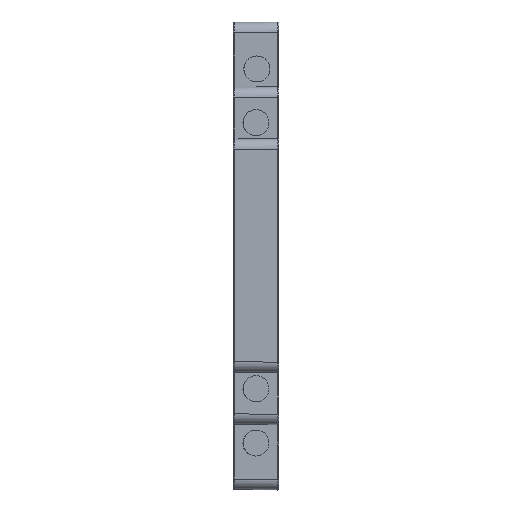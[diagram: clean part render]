
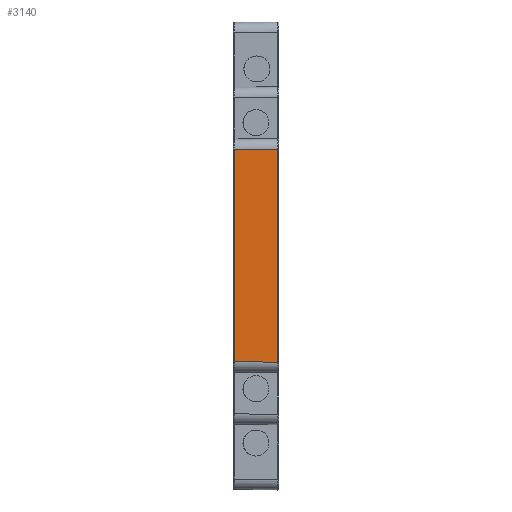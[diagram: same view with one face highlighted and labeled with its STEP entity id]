
A CAD part, top view. The second image highlights one B-rep face of the part: STEP entity #3140.
In plain terms, the highlighted planar face has unit normal (-0.009, 0, 1).
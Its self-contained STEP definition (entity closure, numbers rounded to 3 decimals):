
#12 = CARTESIAN_POINT ( 'NONE',  ( 8.598, 24.5, 59.696 ) ) ;
#339 = EDGE_CURVE ( 'NONE', #6091, #6388, #846, .T. ) ;
#545 = DIRECTION ( 'NONE',  ( 0., 1., 0. ) ) ;
#721 = DIRECTION ( 'NONE',  ( 1., 0.009, 0.009 ) ) ;
#784 = EDGE_CURVE ( 'NONE', #4058, #6388, #4482, .T. ) ;
#811 = VECTOR ( 'NONE', #7053, 1000. ) ;
#846 = LINE ( 'NONE', #4009, #811 ) ;
#1580 = FACE_OUTER_BOUND ( 'NONE', #7339, .T. ) ;
#2239 = ORIENTED_EDGE ( 'NONE', *, *, #339, .T. ) ;
#2740 = ORIENTED_EDGE ( 'NONE', *, *, #784, .F. ) ;
#2804 = DIRECTION ( 'NONE',  ( 0., -1., 0. ) ) ;
#2968 = ORIENTED_EDGE ( 'NONE', *, *, #4594, .F. ) ;
#3140 = ADVANCED_FACE ( 'NONE', ( #1580 ), #3210, .T. ) ;
#3210 = PLANE ( 'NONE',  #6452 ) ;
#3956 = CARTESIAN_POINT ( 'NONE',  ( 0.198, 24.573, 59.623 ) ) ;
#4009 = CARTESIAN_POINT ( 'NONE',  ( 0.198, 24.573, 59.623 ) ) ;
#4058 = VERTEX_POINT ( 'NONE', #6343 ) ;
#4076 = VECTOR ( 'NONE', #2804, 1000. ) ;
#4482 = LINE ( 'NONE', #9790, #4076 ) ;
#4594 = EDGE_CURVE ( 'NONE', #6091, #9530, #8473, .T. ) ;
#4606 = LINE ( 'NONE', #7690, #6009 ) ;
#4693 = DIRECTION ( 'NONE',  ( -0.009, 0., 1. ) ) ;
#5021 = VECTOR ( 'NONE', #545, 1000. ) ;
#5502 = DIRECTION ( 'NONE',  ( 0., -1., 0. ) ) ;
#6009 = VECTOR ( 'NONE', #721, 1000. ) ;
#6091 = VERTEX_POINT ( 'NONE', #3956 ) ;
#6343 = CARTESIAN_POINT ( 'NONE',  ( 8.598, 65.497, 59.696 ) ) ;
#6388 = VERTEX_POINT ( 'NONE', #12 ) ;
#6437 = EDGE_CURVE ( 'NONE', #9530, #4058, #4606, .T. ) ;
#6441 = CARTESIAN_POINT ( 'NONE',  ( 0.198, 65.423, 59.623 ) ) ;
#6452 = AXIS2_PLACEMENT_3D ( 'NONE', #7069, #4693, #5502 ) ;
#6528 = ORIENTED_EDGE ( 'NONE', *, *, #6437, .F. ) ;
#7053 = DIRECTION ( 'NONE',  ( 1., -0.009, 0.009 ) ) ;
#7069 = CARTESIAN_POINT ( 'NONE',  ( 8.8, 21.387, 59.698 ) ) ;
#7339 = EDGE_LOOP ( 'NONE', ( #6528, #2968, #2239, #2740 ) ) ;
#7690 = CARTESIAN_POINT ( 'NONE',  ( 0.198, 65.423, 59.623 ) ) ;
#8363 = CARTESIAN_POINT ( 'NONE',  ( 0.198, 24.573, 59.623 ) ) ;
#8473 = LINE ( 'NONE', #8363, #5021 ) ;
#9530 = VERTEX_POINT ( 'NONE', #6441 ) ;
#9790 = CARTESIAN_POINT ( 'NONE',  ( 8.598, 65.497, 59.696 ) ) ;
